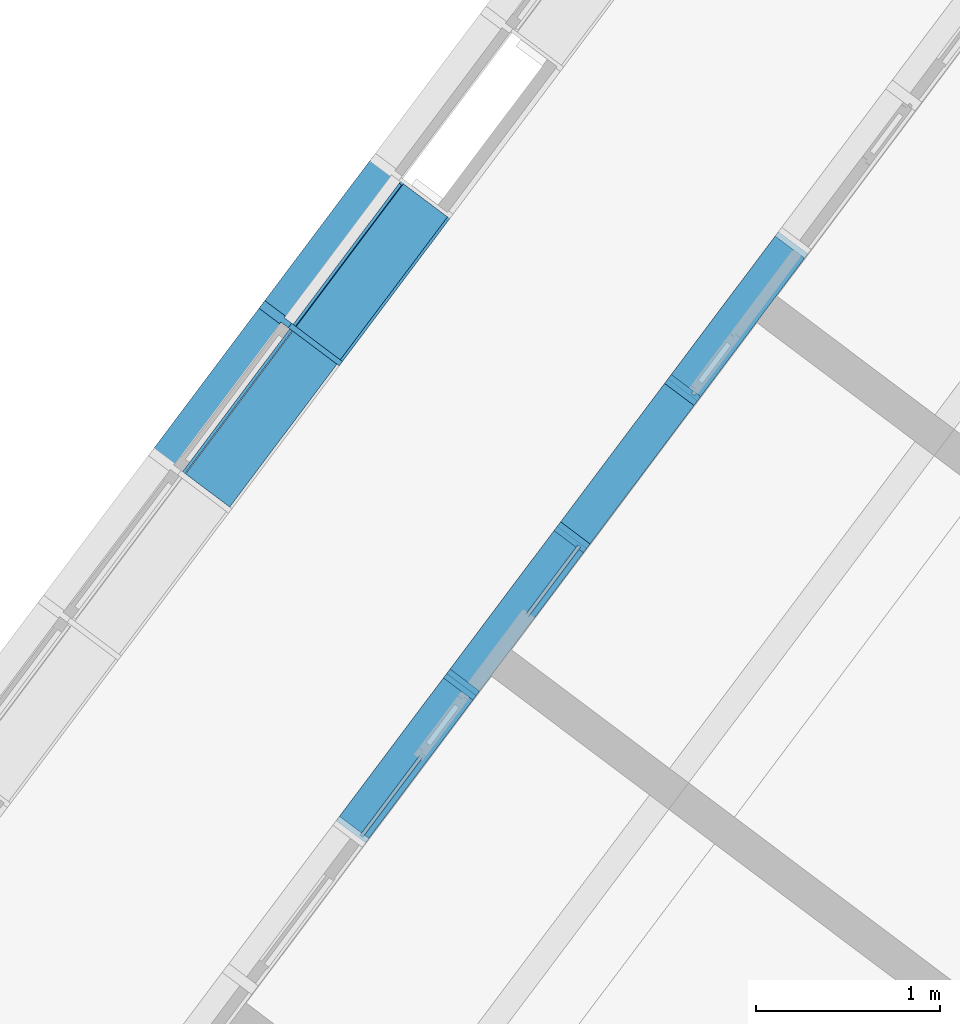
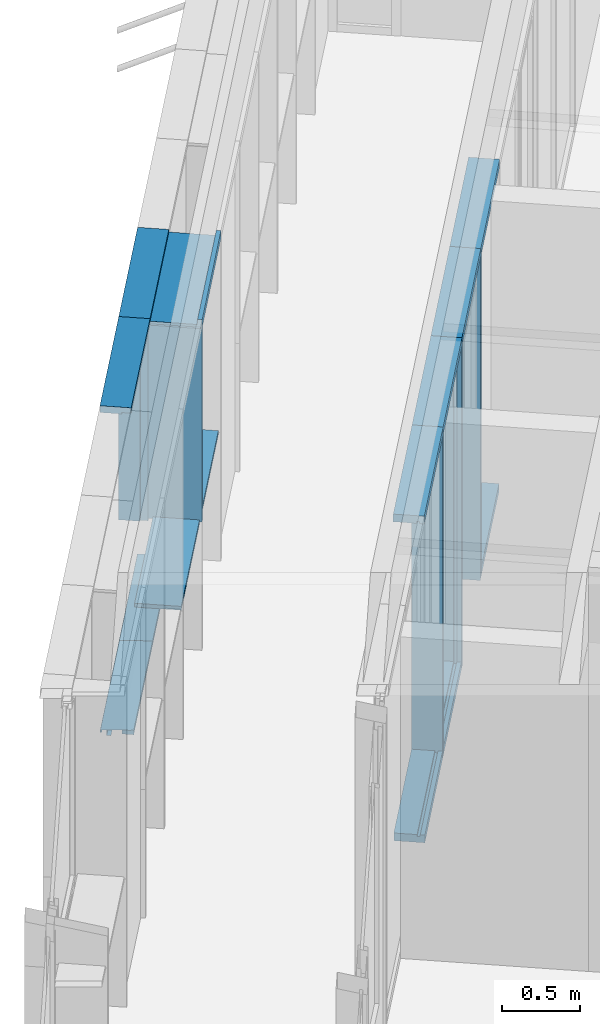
# One storey, part 22 of 243: 19 members, 3 elements without a shape of their own.
"""IFC2X3 building model written with IfcOpenShell, lengths in metres."""

from ifc_helpers import new_model, entity, si_unit, converted_unit, derived_unit, direction, frame, frame_2d, origin, place, context, subcontext, project, spatial, polyline, circle_curve, parameter, trimmed, segment, composite_curve, rectangle, outline, extrude, source, transform, mapped, material, type_object, type_shapes, element, aggregate, save


model = new_model("IFC2X3")

# Units and contexts
model_context = context("Model", 3, precision=1e-05, world=origin(), true_north=direction((6.123031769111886e-17, 1.0)))
body_context = subcontext(model_context, "Body", "Model", "MODEL_VIEW")
ifc_project = project(units=[si_unit("LENGTHUNIT", "METRE"), si_unit("AREAUNIT", "SQUARE_METRE"), si_unit("VOLUMEUNIT", "CUBIC_METRE"), converted_unit("PLANEANGLEUNIT", "DEGREE", entity("IfcRatioMeasure", 0.017453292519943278), si_unit("PLANEANGLEUNIT", "RADIAN"), dimensions=[0, 0, 0, 0, 0, 0, 0]), si_unit("MASSUNIT", "GRAM", prefix="KILO"), derived_unit("MASSDENSITYUNIT", [(si_unit("MASSUNIT", "GRAM", prefix="KILO"), 1), (si_unit("LENGTHUNIT", "METRE"), -3)]), derived_unit("IONCONCENTRATIONUNIT", [(si_unit("MASSUNIT", "GRAM", prefix="KILO"), 1), (si_unit("LENGTHUNIT", "METRE"), -3)]), derived_unit("MOMENTOFINERTIAUNIT", [(si_unit("LENGTHUNIT", "METRE"), 4)]), si_unit("TIMEUNIT", "SECOND"), si_unit("FREQUENCYUNIT", "HERTZ"), si_unit("THERMODYNAMICTEMPERATUREUNIT", "DEGREE_CELSIUS"), derived_unit("THERMALTRANSMITTANCEUNIT", [(si_unit("MASSUNIT", "GRAM", prefix="KILO"), 1), (si_unit("THERMODYNAMICTEMPERATUREUNIT", "KELVIN"), -1), (si_unit("TIMEUNIT", "SECOND"), -3)]), derived_unit("THERMALCONDUCTANCEUNIT", [(si_unit("MASSUNIT", "GRAM", prefix="KILO"), 1), (si_unit("THERMODYNAMICTEMPERATUREUNIT", "KELVIN"), -1), (si_unit("TIMEUNIT", "SECOND"), -3), (si_unit("LENGTHUNIT", "METRE"), 1)]), derived_unit("VOLUMETRICFLOWRATEUNIT", [(si_unit("LENGTHUNIT", "METRE"), 3), (si_unit("TIMEUNIT", "SECOND"), -1)]), derived_unit("MASSFLOWRATEUNIT", [(si_unit("MASSUNIT", "GRAM", prefix="KILO"), 1), (si_unit("TIMEUNIT", "SECOND"), -1)]), derived_unit("ROTATIONALFREQUENCYUNIT", [(si_unit("TIMEUNIT", "SECOND"), -1)]), si_unit("ELECTRICCURRENTUNIT", "AMPERE"), si_unit("ELECTRICVOLTAGEUNIT", "VOLT"), si_unit("POWERUNIT", "WATT"), si_unit("FORCEUNIT", "NEWTON", prefix="KILO"), si_unit("ILLUMINANCEUNIT", "LUX"), si_unit("LUMINOUSFLUXUNIT", "LUMEN"), si_unit("LUMINOUSINTENSITYUNIT", "CANDELA"), derived_unit("USERDEFINED", [(si_unit("MASSUNIT", "GRAM", prefix="KILO"), -1), (si_unit("LENGTHUNIT", "METRE"), -2), (si_unit("TIMEUNIT", "SECOND"), 3), (si_unit("LUMINOUSFLUXUNIT", "LUMEN"), 1)]), derived_unit("USERDEFINED", [(si_unit("MASSUNIT", "GRAM", prefix="KILO"), 1), (si_unit("TIMEUNIT", "SECOND"), -3), (si_unit("LENGTHUNIT", "METRE"), 3), (si_unit("ELECTRICCURRENTUNIT", "AMPERE"), -2)]), derived_unit("SOUNDPOWERUNIT", [(si_unit("MASSUNIT", "GRAM", prefix="KILO"), 1), (si_unit("TIMEUNIT", "SECOND"), -3), (si_unit("LENGTHUNIT", "METRE"), 2)]), derived_unit("SOUNDPRESSUREUNIT", [(si_unit("MASSUNIT", "GRAM", prefix="KILO"), 1), (si_unit("LENGTHUNIT", "METRE"), -1), (si_unit("TIMEUNIT", "SECOND"), -2)]), derived_unit("LINEARVELOCITYUNIT", [(si_unit("LENGTHUNIT", "METRE"), 1), (si_unit("TIMEUNIT", "SECOND"), -1)]), si_unit("PRESSUREUNIT", "PASCAL"), derived_unit("USERDEFINED", [(si_unit("MASSUNIT", "GRAM", prefix="KILO"), 1), (si_unit("LENGTHUNIT", "METRE"), -2), (si_unit("TIMEUNIT", "SECOND"), -2)]), derived_unit("LINEARFORCEUNIT", [(si_unit("MASSUNIT", "GRAM", prefix="KILO"), 1), (si_unit("TIMEUNIT", "SECOND"), -2)]), derived_unit("PLANARFORCEUNIT", [(si_unit("MASSUNIT", "GRAM", prefix="KILO"), 1), (si_unit("LENGTHUNIT", "METRE"), -1), (si_unit("TIMEUNIT", "SECOND"), -2)]), derived_unit("SPECIFICHEATCAPACITYUNIT", [(si_unit("THERMODYNAMICTEMPERATUREUNIT", "KELVIN"), -1), (si_unit("LENGTHUNIT", "METRE"), 2), (si_unit("TIMEUNIT", "SECOND"), -2)]), derived_unit("HEATINGVALUEUNIT", [(si_unit("LENGTHUNIT", "METRE"), 2), (si_unit("TIMEUNIT", "SECOND"), -2)]), derived_unit("VAPORPERMEABILITYUNIT", [(si_unit("LENGTHUNIT", "METRE"), -1), (si_unit("TIMEUNIT", "SECOND"), 1)]), derived_unit("DYNAMICVISCOSITYUNIT", [(si_unit("MASSUNIT", "GRAM", prefix="KILO"), 1), (si_unit("TIMEUNIT", "SECOND"), -1), (si_unit("LENGTHUNIT", "METRE"), -1)]), derived_unit("THERMALEXPANSIONCOEFFICIENTUNIT", [(si_unit("THERMODYNAMICTEMPERATUREUNIT", "KELVIN"), -1)]), derived_unit("MODULUSOFELASTICITYUNIT", [(si_unit("MASSUNIT", "GRAM", prefix="KILO"), 1), (si_unit("LENGTHUNIT", "METRE"), -1), (si_unit("TIMEUNIT", "SECOND"), -2)]), derived_unit("ISOTHERMALMOISTURECAPACITYUNIT", [(si_unit("LENGTHUNIT", "METRE"), 3), (si_unit("MASSUNIT", "GRAM", prefix="KILO"), -1)]), derived_unit("MOISTUREDIFFUSIVITYUNIT", [(si_unit("TIMEUNIT", "SECOND"), -1), (si_unit("LENGTHUNIT", "METRE"), 2)])], contexts=[model_context])

# Site, building, storey
site_placement = place(None, frame((0.0, 0.0, 235.0), z_axis=(0.0, 0.0, 1.0), x_axis=(-0.7996477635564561, 0.6004693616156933, 0.0)))
site = spatial("IfcSite", under=ifc_project, at=site_placement, Name="Default", CompositionType="ELEMENT")
building_placement = place(site_placement, origin())
building = spatial("IfcBuilding", under=site, at=building_placement, CompositionType="ELEMENT")
storey_placement = place(building_placement, origin())
storey = spatial("IfcBuildingStorey", under=building, at=storey_placement, Name="P0- Escola", CompositionType="ELEMENT", Elevation=0.0)

# Curtain wall, members
curtain_wall_type_1 = type_object("IfcCurtainWallType", Name="Muro cortina:MC- INT- a2", PredefinedType="NOTDEFINED")
curtain_wall_1_placement = place(storey_placement, origin())
curtain_wall_1 = element("IfcCurtainWall", 1, at=curtain_wall_1_placement, inside=storey, type_object=curtain_wall_type_1, Name="Muro cortina:MC- INT- a2", ObjectType="Muro cortina:MC- INT- a2")
ifc_material_1 = material(Name="_Fusta massisa- T1")
member_type_1 = type_object("IfcMemberType", Name="Montante rectangular:MC- Fusta- 20x6 cm- Esquerra", PredefinedType="MULLION", material=ifc_material_1)
shared_shape_1 = source(origin(), body_context, "Body", "SweptSolid", [
    extrude(outline(polyline([(-0.13, -0.018750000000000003), (0.02, -0.018750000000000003), (0.02, -0.003750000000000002), (0.04000000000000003, -0.003750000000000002), (0.04000000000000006, -0.01875000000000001), (0.07000000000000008, -0.018750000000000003), (0.06999999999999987, 0.041249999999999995), (-0.13, 0.041249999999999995), (-0.13, -0.018750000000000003)])), frame((-0.01124999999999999, 0.029999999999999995, -2.5050000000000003), z_axis=(0.0, 0.0, 1.0), x_axis=(0.0, -1.0, 0.0)), (0.0, 0.0, 1.0), 2.5050000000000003),
])
type_shapes(member_type_1, [shared_shape_1])
member_1_placement = place(curtain_wall_1_placement, frame((34.620147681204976, -29.415191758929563, 0.0), z_axis=(0.0, 0.0, -1.0), x_axis=(0.0, 1.0, 0.0)))
member_1 = element("IfcMember", 2, at=member_1_placement, type_object=member_type_1, material=ifc_material_1, Name="Montante rectangular:MC- Fusta- 20x6 cm- Esquerra", ObjectType="Montante rectangular:MC- Fusta- 20x6 cm- Esquerra", context=body_context, shape_type="MappedRepresentation", body=[
    mapped(shared_shape_1, transform((0.0, 0.0, 0.0), scale=1.0)),
])
member_type_2 = type_object("IfcMemberType", Name="Montante rectangular:MC- Fusta- 20x6 cm- Esquerra", PredefinedType="MULLION", material=ifc_material_1)
shared_shape_2 = source(origin(), body_context, "Body", "SweptSolid", [
    extrude(outline(polyline([(-0.13000000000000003, -0.018750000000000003), (0.020000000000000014, -0.018750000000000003), (0.020000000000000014, -0.003750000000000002), (0.040000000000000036, -0.003750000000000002), (0.04000000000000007, -0.01875000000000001), (0.07000000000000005, -0.018750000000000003), (0.06999999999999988, 0.041249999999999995), (-0.13000000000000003, 0.041249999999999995), (-0.13000000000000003, -0.018750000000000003)])), frame((-0.041249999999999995, 0.030000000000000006, -1.0), z_axis=(0.0, 0.0, 1.0), x_axis=(0.0, -1.0, 0.0)), (0.0, 0.0, 1.0), 0.9999999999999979),
])
type_shapes(member_type_2, [shared_shape_2])
member_2_placement = place(curtain_wall_1_placement, frame((34.620147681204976, -29.415191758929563, 2.565), z_axis=(0.0, 1.0, 0.0), x_axis=(0.0, 0.0, 1.0)))
member_2 = element("IfcMember", 3, at=member_2_placement, type_object=member_type_2, material=ifc_material_1, Name="Montante rectangular:MC- Fusta- 20x6 cm- Esquerra", ObjectType="Montante rectangular:MC- Fusta- 20x6 cm- Esquerra", context=body_context, shape_type="MappedRepresentation", body=[
    mapped(shared_shape_2, transform((0.0, 0.0, 0.0), scale=1.0)),
])
member_3_placement = place(curtain_wall_1_placement, frame((34.62014768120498, -26.415191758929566, 2.565), z_axis=(0.0, 1.0, 0.0), x_axis=(0.0, 0.0, 1.0)))
member_3 = element("IfcMember", 4, at=member_3_placement, type_object=member_type_2, material=ifc_material_1, Name="Montante rectangular:MC- Fusta- 20x6 cm- Esquerra", ObjectType="Montante rectangular:MC- Fusta- 20x6 cm- Esquerra", context=body_context, shape_type="MappedRepresentation", body=[
    mapped(shared_shape_2, transform((0.0, 0.0, 0.0), scale=1.0)),
])
member_type_3 = type_object("IfcMemberType", Name="Montante rectangular:MC- Fusta- 20x6 cm- Neutre", PredefinedType="MULLION", material=ifc_material_1)
shared_shape_3 = source(origin(), body_context, "Body", "SweptSolid", [
    extrude(rectangle(XDim=0.2, YDim=0.06, at=frame_2d((-5.551115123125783e-17, 0.0), x_axis=(1.0, 0.0))), frame((0.0, 0.060000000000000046, -2.5050000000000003), z_axis=(0.0, 0.0, 1.0), x_axis=(0.0, -1.0, 0.0)), (0.0, 0.0, 1.0), 2.5050000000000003),
])
type_shapes(member_type_3, [shared_shape_3])
member_4_placement = place(curtain_wall_1_placement, frame((34.62014768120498, -27.415191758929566, 0.0), z_axis=(0.0, 0.0, -1.0), x_axis=(0.0, 1.0, 0.0)))
member_4 = element("IfcMember", 5, at=member_4_placement, type_object=member_type_3, material=ifc_material_1, Name="Montante rectangular:MC- Fusta- 20x6 cm- Neutre", ObjectType="Montante rectangular:MC- Fusta- 20x6 cm- Neutre", context=body_context, shape_type="MappedRepresentation", body=[
    mapped(shared_shape_3, transform((0.0, 0.0, 0.0), scale=1.0)),
])
member_type_4 = type_object("IfcMemberType", Name="Montante rectangular:MC- Fusta- 20x6 cm- Esquerra", PredefinedType="MULLION", material=ifc_material_1)
shared_shape_4 = source(origin(), body_context, "Body", "SweptSolid", [
    extrude(outline(polyline([(-0.13, -0.018750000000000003), (0.02, -0.018750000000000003), (0.02, -0.003750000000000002), (0.04000000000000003, -0.003750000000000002), (0.04000000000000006, -0.01875000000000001), (0.07000000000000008, -0.018750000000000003), (0.06999999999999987, 0.041249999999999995), (-0.13, 0.041249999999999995), (-0.13, -0.018750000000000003)])), frame((-0.041249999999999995, 0.029999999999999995, -1.0), z_axis=(0.0, 0.0, 1.0), x_axis=(0.0, -1.0, 0.0)), (0.0, 0.0, 1.0), 0.9999999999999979),
])
type_shapes(member_type_4, [shared_shape_4])
member_5_placement = place(curtain_wall_1_placement, frame((34.62014768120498, -27.415191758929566, 2.565), z_axis=(0.0, 1.0, 0.0), x_axis=(0.0, 0.0, 1.0)))
member_5 = element("IfcMember", 6, at=member_5_placement, type_object=member_type_4, material=ifc_material_1, Name="Montante rectangular:MC- Fusta- 20x6 cm- Esquerra", ObjectType="Montante rectangular:MC- Fusta- 20x6 cm- Esquerra", context=body_context, shape_type="MappedRepresentation", body=[
    mapped(shared_shape_4, transform((0.0, 0.0, 0.0), scale=1.0)),
])
member_type_5 = type_object("IfcMemberType", Name="Montante rectangular:MC- Fusta- 20x6 cm- Neutre", PredefinedType="MULLION", material=ifc_material_1)
shared_shape_5 = source(origin(), body_context, "Body", "SweptSolid", [
    extrude(rectangle(XDim=0.20000000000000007, YDim=0.06, at=frame_2d((-5.551115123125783e-17, 0.0), x_axis=(1.0, 0.0))), frame((-0.03, 0.06000000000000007, -1.0), z_axis=(0.0, 0.0, 1.0), x_axis=(0.0, -1.0, 0.0)), (0.0, 0.0, 1.0), 0.9999999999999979),
])
type_shapes(member_type_5, [shared_shape_5])
member_6_placement = place(curtain_wall_1_placement, frame((34.620147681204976, -28.415191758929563, 2.565), z_axis=(0.0, 1.0, 0.0), x_axis=(0.0, 0.0, 1.0)))
member_6 = element("IfcMember", 7, at=member_6_placement, type_object=member_type_5, material=ifc_material_1, Name="Montante rectangular:MC- Fusta- 20x6 cm- Neutre", ObjectType="Montante rectangular:MC- Fusta- 20x6 cm- Neutre", context=body_context, shape_type="MappedRepresentation", body=[
    mapped(shared_shape_5, transform((0.0, 0.0, 0.0), scale=1.0)),
])
member_type_6 = type_object("IfcMemberType", Name="Montante rectangular:MC- Fusta- 20x6 cm- Dreta", PredefinedType="MULLION", material=ifc_material_1)
shared_shape_6 = source(origin(), body_context, "Body", "SweptSolid", [
    extrude(outline(polyline([(-0.13000000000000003, -0.041249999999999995), (0.07000000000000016, -0.041249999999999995), (0.06999999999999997, 0.01875), (0.039999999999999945, 0.01875), (0.03999999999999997, 0.00375), (0.019999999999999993, 0.00375), (0.019999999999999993, 0.01875), (-0.13000000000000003, 0.01875), (-0.13000000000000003, -0.041249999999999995)])), frame((0.011250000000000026, 0.029999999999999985, -2.5050000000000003), z_axis=(0.0, 0.0, 1.0), x_axis=(0.0, -1.0, 0.0)), (0.0, 0.0, 1.0), 2.5050000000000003),
])
type_shapes(member_type_6, [shared_shape_6])
member_7_placement = place(curtain_wall_1_placement, frame((34.620147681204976, -28.415191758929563, 0.0), z_axis=(0.0, 0.0, -1.0), x_axis=(0.0, 1.0, 0.0)))
member_7 = element("IfcMember", 8, at=member_7_placement, type_object=member_type_6, material=ifc_material_1, Name="Montante rectangular:MC- Fusta- 20x6 cm- Dreta", ObjectType="Montante rectangular:MC- Fusta- 20x6 cm- Dreta", context=body_context, shape_type="MappedRepresentation", body=[
    mapped(shared_shape_6, transform((0.0, 0.0, 0.0), scale=1.0)),
])
member_type_7 = type_object("IfcMemberType", Name="Montante rectangular:MC- Fusta- 20x6 cm- Inferior", PredefinedType="MULLION", material=ifc_material_1)
shared_shape_7 = source(origin(), body_context, "Body", "SweptSolid", [
    extrude(outline(polyline([(-0.12999999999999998, -0.018750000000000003), (0.01999999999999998, -0.018750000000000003), (0.01999999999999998, -0.0037500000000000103), (0.04, -0.0037500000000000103), (0.039999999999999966, -0.018750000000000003), (0.06999999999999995, -0.018750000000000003), (0.07000000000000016, 0.041249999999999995), (-0.12999999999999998, 0.041249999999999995), (-0.12999999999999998, -0.018750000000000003)])), frame((-0.041249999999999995, 0.029999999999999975, -0.9399999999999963), z_axis=(0.0, 0.0, 1.0), x_axis=(0.0, -1.0, 0.0)), (0.0, 0.0, 1.0), 0.9399999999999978),
])
type_shapes(member_type_7, [shared_shape_7])
member_8_placement = place(curtain_wall_1_placement, frame((34.620147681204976, -28.38519175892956, 0.0), z_axis=(0.0, -1.0, 0.0), x_axis=(0.0, 0.0, -1.0)))
member_8 = element("IfcMember", 9, at=member_8_placement, type_object=member_type_7, material=ifc_material_1, Name="Montante rectangular:MC- Fusta- 20x6 cm- Inferior", ObjectType="Montante rectangular:MC- Fusta- 20x6 cm- Inferior", context=body_context, shape_type="MappedRepresentation", body=[
    mapped(shared_shape_7, transform((0.0, 0.0, 0.0), scale=1.0)),
])
member_9_placement = place(curtain_wall_1_placement, frame((34.62014768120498, -27.385191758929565, 0.0), z_axis=(0.0, -1.0, 0.0), x_axis=(0.0, 0.0, -1.0)))
member_9 = element("IfcMember", 10, at=member_9_placement, type_object=member_type_7, material=ifc_material_1, Name="Montante rectangular:MC- Fusta- 20x6 cm- Inferior", ObjectType="Montante rectangular:MC- Fusta- 20x6 cm- Inferior", context=body_context, shape_type="MappedRepresentation", body=[
    mapped(shared_shape_7, transform((0.0, 0.0, 0.0), scale=1.0)),
])
member_type_8 = type_object("IfcMemberType", Name="Montante rectangular:MC- Fusta- 20x6 cm- Neutre", PredefinedType="MULLION", material=ifc_material_1)
shared_shape_8 = source(origin(), body_context, "Body", "SweptSolid", [
    extrude(rectangle(XDim=0.19999999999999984, YDim=0.06, at=frame_2d((4.85722573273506e-17, 0.0), x_axis=(1.0, 0.0))), frame((-0.03, 0.06000000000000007, -0.9399999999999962), z_axis=(0.0, 0.0, 1.0), x_axis=(0.0, -1.0, 0.0)), (0.0, 0.0, 1.0), 0.9399999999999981),
])
type_shapes(member_type_8, [shared_shape_8])
member_10_placement = place(curtain_wall_1_placement, frame((34.620147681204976, -30.385191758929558, 0.0), z_axis=(0.0, -1.0, 0.0), x_axis=(0.0, 0.0, -1.0)))
member_10 = element("IfcMember", 11, at=member_10_placement, type_object=member_type_8, material=ifc_material_1, Name="Montante rectangular:MC- Fusta- 20x6 cm- Neutre", ObjectType="Montante rectangular:MC- Fusta- 20x6 cm- Neutre", context=body_context, shape_type="MappedRepresentation", body=[
    mapped(shared_shape_8, transform((0.0, 0.0, 0.0), scale=1.0)),
])
aggregate(curtain_wall_1, [member_2, member_1, member_6, member_7, member_5, member_4, member_3, member_10, member_8, member_9])

curtain_wall_type_2 = type_object("IfcCurtainWallType", Name="Muro cortina:MC- INT- k2", PredefinedType="NOTDEFINED")
curtain_wall_2_placement = place(storey_placement, origin())
curtain_wall_2 = element("IfcCurtainWall", 12, at=curtain_wall_2_placement, inside=storey, type_object=curtain_wall_type_2, Name="Muro cortina:MC- INT- k2", ObjectType="Muro cortina:MC- INT- k2")
member_type_9 = type_object("IfcMemberType", Name="Montante rectangular:MC- Fusta- 35x3 cm- Pati aules- Remat superior", PredefinedType="MULLION", material=ifc_material_1)
shared_shape_9 = source(origin(), body_context, "Body", "SweptSolid", [
    extrude(outline(polyline([(-0.12166666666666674, -0.02666666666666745), (0.21333333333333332, -0.02666666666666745), (0.2133333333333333, -0.006666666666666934), (-0.09166666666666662, -0.006666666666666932), (-0.09166666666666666, 0.03333333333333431), (-0.12166666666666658, 0.03333333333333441), (-0.12166666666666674, -0.02666666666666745)])), frame((-0.033333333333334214, -0.026666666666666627, -1.0), z_axis=(0.0, 0.0, 1.0), x_axis=(0.0, -1.0, 0.0)), (0.0, 0.0, 1.0), 0.9999999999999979),
])
type_shapes(member_type_9, [shared_shape_9])
member_11_placement = place(curtain_wall_2_placement, frame((36.345147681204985, -29.415191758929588, 2.565), z_axis=(0.0, -1.0, 0.0), x_axis=(0.0, 0.0, 1.0)))
member_11 = element("IfcMember", 13, at=member_11_placement, type_object=member_type_9, material=ifc_material_1, Name="Montante rectangular:MC- Fusta- 35x3 cm- Pati aules- Remat superior", ObjectType="Montante rectangular:MC- Fusta- 35x3 cm- Pati aules- Remat superior", context=body_context, shape_type="MappedRepresentation", body=[
    mapped(shared_shape_9, transform((0.0, 0.0, 0.0), scale=1.0)),
])
member_type_10 = type_object("IfcMemberType", Name="Montante rectangular:MC- Fusta- 35x3 cm- Pati aules- Prestatge", PredefinedType="MULLION", material=ifc_material_1)
shared_shape_10 = source(origin(), body_context, "Body", "SweptSolid", [
    extrude(rectangle(XDim=0.30000000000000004, YDim=0.03000000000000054, at=frame_2d((0.0, -1.231653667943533e-16), x_axis=(1.0, 0.0))), frame((0.0, -0.07000000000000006, -0.9699999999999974), z_axis=(0.0, 0.0, 1.0), x_axis=(0.0, -1.0, 0.0)), (0.0, 0.0, 1.0), 0.969999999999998),
])
type_shapes(member_type_10, [shared_shape_10])
member_12_placement = place(curtain_wall_2_placement, frame((36.34514768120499, -28.400191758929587, 1.0), z_axis=(0.0, -1.0, 0.0), x_axis=(0.0, 0.0, 1.0)))
member_12 = element("IfcMember", 14, at=member_12_placement, type_object=member_type_10, material=ifc_material_1, Name="Montante rectangular:MC- Fusta- 35x3 cm- Pati aules- Prestatge", ObjectType="Montante rectangular:MC- Fusta- 35x3 cm- Pati aules- Prestatge", context=body_context, shape_type="MappedRepresentation", body=[
    mapped(shared_shape_10, transform((0.0, 0.0, 0.0), scale=1.0)),
])
member_13_placement = place(curtain_wall_2_placement, frame((36.345147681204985, -29.400191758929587, 1.0), z_axis=(0.0, -1.0, 0.0), x_axis=(0.0, 0.0, 1.0)))
member_13 = element("IfcMember", 15, at=member_13_placement, type_object=member_type_10, material=ifc_material_1, Name="Montante rectangular:MC- Fusta- 35x3 cm- Pati aules- Prestatge", ObjectType="Montante rectangular:MC- Fusta- 35x3 cm- Pati aules- Prestatge", context=body_context, shape_type="MappedRepresentation", body=[
    mapped(shared_shape_10, transform((0.0, 0.0, 0.0), scale=1.0)),
])
member_type_11 = type_object("IfcMemberType", Name="Montante rectangular:MC- Fusta- 35x3 cm- Centre", PredefinedType="MULLION", material=ifc_material_1)
shared_shape_11 = source(origin(), body_context, "Body", "SweptSolid", [
    extrude(rectangle(XDim=0.3450000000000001, YDim=0.030000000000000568, at=frame_2d((0.0, -1.3964523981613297e-16), x_axis=(1.0, 0.0))), frame((0.0, -0.07750000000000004, -1.504999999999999), z_axis=(0.0, 0.0, 1.0), x_axis=(0.0, -1.0, 0.0)), (0.0, 0.0, 1.0), 1.504999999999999),
])
type_shapes(member_type_11, [shared_shape_11])
member_14_placement = place(curtain_wall_2_placement, frame((36.34514768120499, -28.415191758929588, 1.0), z_axis=(0.0, 0.0, -1.0), x_axis=(0.0, -1.0, 0.0)))
member_14 = element("IfcMember", 16, at=member_14_placement, type_object=member_type_11, material=ifc_material_1, Name="Montante rectangular:MC- Fusta- 35x3 cm- Centre", ObjectType="Montante rectangular:MC- Fusta- 35x3 cm- Centre", context=body_context, shape_type="MappedRepresentation", body=[
    mapped(shared_shape_11, transform((0.0, 0.0, 0.0), scale=1.0)),
])
aggregate(curtain_wall_2, [member_11, member_12, member_13, member_14])

curtain_wall_type_3 = type_object("IfcCurtainWallType", Name="Muro cortina:MC- EXT- MC5", PredefinedType="NOTDEFINED")
curtain_wall_3_placement = place(storey_placement, origin())
curtain_wall_3 = element("IfcCurtainWall", 17, at=curtain_wall_3_placement, inside=storey, type_object=curtain_wall_type_3, Name="Muro cortina:MC- EXT- MC5", ObjectType="Muro cortina:MC- EXT- MC5")
ifc_material_2 = material(Name="_Alumini- T1- Perfil")
member_type_12 = type_object("IfcMemberType", Name="Montante rectangular:MC- Alu- 140x52,5 cm- Fa patis- Superior", PredefinedType="MULLION", material=ifc_material_2)
shared_shape_12 = source(origin(), body_context, "Body", "SweptSolid", [
    extrude(outline(polyline([(-0.026333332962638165, -0.021249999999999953), (0.11366666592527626, -0.021249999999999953), (0.11366666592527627, 0.031250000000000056), (-0.08733333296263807, 0.03125000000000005), (-0.0873333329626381, -0.010000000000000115), (-0.026333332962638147, -0.010000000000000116), (-0.026333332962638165, -0.021249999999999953)])), frame((-0.031250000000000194, -0.02733333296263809, -1.0), z_axis=(0.0, 0.0, 1.0), x_axis=(0.0, -1.0, 0.0)), (0.0, 0.0, 1.0), 1.0000000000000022),
])
type_shapes(member_type_12, [shared_shape_12])
member_15_placement = place(curtain_wall_3_placement, frame((36.645147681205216, -28.415191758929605, 2.545), z_axis=(0.0, -1.0, 0.0), x_axis=(0.0, 0.0, 1.0)))
member_15 = element("IfcMember", 18, at=member_15_placement, type_object=member_type_12, material=ifc_material_2, Name="Montante rectangular:MC- Alu- 140x52,5 cm- Fa patis- Superior", ObjectType="Montante rectangular:MC- Alu- 140x52,5 cm- Fa patis- Superior", context=body_context, shape_type="MappedRepresentation", body=[
    mapped(shared_shape_12, transform((0.0, 0.0, 0.0), scale=1.0)),
])
member_16_placement = place(curtain_wall_3_placement, frame((36.645147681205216, -29.415191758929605, 2.545), z_axis=(0.0, -1.0, 0.0), x_axis=(0.0, 0.0, 1.0)))
member_16 = element("IfcMember", 19, at=member_16_placement, type_object=member_type_12, material=ifc_material_2, Name="Montante rectangular:MC- Alu- 140x52,5 cm- Fa patis- Superior", ObjectType="Montante rectangular:MC- Alu- 140x52,5 cm- Fa patis- Superior", context=body_context, shape_type="MappedRepresentation", body=[
    mapped(shared_shape_12, transform((0.0, 0.0, 0.0), scale=1.0)),
])
member_type_13 = type_object("IfcMemberType", Name="Montante rectangular:MC- Alu- 140x52,5 cm- Fa patis- inferior", PredefinedType="MULLION", material=ifc_material_2)
shared_shape_13 = source(origin(), body_context, "Body", "SweptSolid", [
    extrude(outline(composite_curve([segment(polyline([(-0.144167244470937, -0.02586710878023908), (-0.12786724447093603, -0.025867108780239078)]), True, "CONTINUOUS"), segment(polyline([(-0.12786724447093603, -0.025867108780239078), (-0.12786724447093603, -0.023167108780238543)]), True, "CONTINUOUS"), segment(polyline([(-0.12786724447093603, -0.023167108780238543), (-0.0678672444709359, -0.023167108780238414)]), True, "CONTINUOUS"), segment(polyline([(-0.0678672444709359, -0.023167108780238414), (0.07031215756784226, -0.01072210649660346)]), True, "CONTINUOUS"), segment(trimmed(circle_curve(frame_2d((0.07013275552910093, -0.00873016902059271), x_axis=(0.0897010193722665, -0.9959687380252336)), 0.0019999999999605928), [parameter(0.0)], [parameter(84.85359280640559)], True, "PARAMETER"), True, "CONTINUOUS"), segment(polyline([(0.07213275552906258, -0.008730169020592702), (0.07213275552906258, 0.006266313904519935)]), True, "CONTINUOUS"), segment(trimmed(circle_curve(frame_2d((0.070132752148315, 0.0062663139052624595), x_axis=(1.0, 0.0)), 0.0020000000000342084), [parameter(0.0)], [parameter(90.00000002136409)], True, "PARAMETER"), True, "CONTINUOUS"), segment(polyline([(0.070132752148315, 0.008266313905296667), (0.06213275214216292, 0.008266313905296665)]), True, "CONTINUOUS"), segment(polyline([(0.06213275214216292, 0.008266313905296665), (0.06213275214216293, 0.006266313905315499)]), True, "CONTINUOUS"), segment(polyline([(0.06213275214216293, 0.006266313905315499), (0.06963275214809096, 0.006266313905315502)]), True, "CONTINUOUS"), segment(trimmed(circle_curve(frame_2d((0.06963275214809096, 0.005766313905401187), x_axis=(0.0, 1.0)), 0.000499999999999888), [parameter(269.9999999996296)], [parameter(0.0)], True, "PARAMETER"), False, "CONTINUOUS"), segment(polyline([(0.07013275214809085, 0.005766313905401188), (0.07013275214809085, -0.0087301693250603)]), True, "CONTINUOUS"), segment(polyline([(0.07013275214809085, -0.0087301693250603), (0.03213275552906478, -0.01215260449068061)]), True, "CONTINUOUS"), segment(polyline([(0.03213275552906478, -0.012152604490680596), (0.03213275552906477, 0.02913289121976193)]), True, "CONTINUOUS"), segment(polyline([(0.03213275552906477, 0.02913289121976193), (0.0021327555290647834, 0.029132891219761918)]), True, "CONTINUOUS"), segment(polyline([(0.0021327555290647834, 0.029132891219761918), (0.0021327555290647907, 0.027132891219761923)]), True, "CONTINUOUS"), segment(polyline([(0.0021327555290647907, 0.027132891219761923), (0.03013275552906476, 0.027132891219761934)]), True, "CONTINUOUS"), segment(polyline([(0.03013275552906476, 0.027132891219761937), (0.03013275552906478, -0.012332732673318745)]), True, "CONTINUOUS"), segment(polyline([(0.03013275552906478, -0.012332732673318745), (-0.06786724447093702, -0.02115901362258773)]), True, "CONTINUOUS"), segment(polyline([(-0.06786724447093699, -0.021159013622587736), (-0.067867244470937, 0.009132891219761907)]), True, "CONTINUOUS"), segment(polyline([(-0.06786724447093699, 0.009132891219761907), (-0.14416724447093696, 0.00913289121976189)]), True, "CONTINUOUS"), segment(polyline([(-0.14416724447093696, 0.00913289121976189), (-0.144167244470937, -0.02586710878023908)]), True, "CONTINUOUS")], self_intersect=False)), frame((-0.02913289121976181, -0.06786724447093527, -1.0), z_axis=(0.0, 0.0, 1.0), x_axis=(0.0, -1.0, 0.0)), (0.0, 0.0, 1.0), 0.9999999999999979),
])
type_shapes(member_type_13, [shared_shape_13])
member_17_placement = place(curtain_wall_3_placement, frame((36.645147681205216, -27.41519175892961, -0.02), z_axis=(0.0, 1.0, 0.0), x_axis=(0.0, 0.0, -1.0)))
member_17 = element("IfcMember", 20, at=member_17_placement, type_object=member_type_13, material=ifc_material_2, Name="Montante rectangular:MC- Alu- 140x52,5 cm- Fa patis- inferior", ObjectType="Montante rectangular:MC- Alu- 140x52,5 cm- Fa patis- inferior", context=body_context, shape_type="MappedRepresentation", body=[
    mapped(shared_shape_13, transform((0.0, 0.0, 0.0), scale=1.0)),
])
member_type_14 = type_object("IfcMemberType", Name="Montante rectangular:MC- Alu- 140x52,5 cm- Fa patis- inferior", PredefinedType="MULLION", material=ifc_material_2)
shared_shape_14 = source(origin(), body_context, "Body", "SweptSolid", [
    extrude(outline(composite_curve([segment(polyline([(-0.144167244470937, -0.025867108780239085), (-0.12786724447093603, -0.02586710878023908)]), True, "CONTINUOUS"), segment(polyline([(-0.12786724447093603, -0.02586710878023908), (-0.12786724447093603, -0.023167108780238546)]), True, "CONTINUOUS"), segment(polyline([(-0.12786724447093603, -0.023167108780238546), (-0.0678672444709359, -0.023167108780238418)]), True, "CONTINUOUS"), segment(polyline([(-0.0678672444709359, -0.023167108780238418), (0.07031215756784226, -0.010722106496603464)]), True, "CONTINUOUS"), segment(trimmed(circle_curve(frame_2d((0.07013275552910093, -0.008730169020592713), x_axis=(0.0897010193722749, -0.9959687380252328)), 0.0019999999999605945), [parameter(0.0)], [parameter(84.8535928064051)], True, "PARAMETER"), True, "CONTINUOUS"), segment(polyline([(0.07213275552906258, -0.008730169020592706), (0.07213275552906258, 0.006266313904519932)]), True, "CONTINUOUS"), segment(trimmed(circle_curve(frame_2d((0.07013275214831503, 0.006266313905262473), x_axis=(1.0, 0.0)), 0.0020000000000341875), [parameter(0.0)], [parameter(90.00000002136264)], True, "PARAMETER"), True, "CONTINUOUS"), segment(polyline([(0.070132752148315, 0.008266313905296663), (0.06213275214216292, 0.008266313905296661)]), True, "CONTINUOUS"), segment(polyline([(0.06213275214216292, 0.008266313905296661), (0.06213275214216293, 0.006266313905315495)]), True, "CONTINUOUS"), segment(polyline([(0.06213275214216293, 0.006266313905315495), (0.06963275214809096, 0.006266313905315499)]), True, "CONTINUOUS"), segment(trimmed(circle_curve(frame_2d((0.06963275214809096, 0.005766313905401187), x_axis=(0.0, 1.0)), 0.0004999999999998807), [parameter(269.9999999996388)], [parameter(0.0)], True, "PARAMETER"), False, "CONTINUOUS"), segment(polyline([(0.07013275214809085, 0.005766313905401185), (0.07013275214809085, -0.008730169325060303)]), True, "CONTINUOUS"), segment(polyline([(0.07013275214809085, -0.008730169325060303), (0.03213275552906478, -0.012152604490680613)]), True, "CONTINUOUS"), segment(polyline([(0.03213275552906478, -0.0121526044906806), (0.03213275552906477, 0.029132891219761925)]), True, "CONTINUOUS"), segment(polyline([(0.03213275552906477, 0.029132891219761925), (0.0021327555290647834, 0.029132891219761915)]), True, "CONTINUOUS"), segment(polyline([(0.0021327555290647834, 0.029132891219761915), (0.0021327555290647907, 0.02713289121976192)]), True, "CONTINUOUS"), segment(polyline([(0.0021327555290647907, 0.02713289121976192), (0.03013275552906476, 0.02713289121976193)]), True, "CONTINUOUS"), segment(polyline([(0.03013275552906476, 0.027132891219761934), (0.03013275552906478, -0.012332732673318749)]), True, "CONTINUOUS"), segment(polyline([(0.03013275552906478, -0.012332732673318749), (-0.06786724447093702, -0.021159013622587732)]), True, "CONTINUOUS"), segment(polyline([(-0.06786724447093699, -0.02115901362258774), (-0.067867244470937, 0.009132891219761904)]), True, "CONTINUOUS"), segment(polyline([(-0.06786724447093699, 0.009132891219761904), (-0.14416724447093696, 0.009132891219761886)]), True, "CONTINUOUS"), segment(polyline([(-0.14416724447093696, 0.009132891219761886), (-0.144167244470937, -0.025867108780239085)]), True, "CONTINUOUS")], self_intersect=False)), frame((-0.029132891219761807, -0.06786724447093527, -0.9737499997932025), z_axis=(0.0, 0.0, 1.0), x_axis=(0.0, -1.0, 0.0)), (0.0, 0.0, 1.0), 0.9737499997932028),
])
type_shapes(member_type_14, [shared_shape_14])
member_18_placement = place(curtain_wall_3_placement, frame((36.645147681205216, -28.415191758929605, -0.02), z_axis=(0.0, 1.0, 0.0), x_axis=(0.0, 0.0, -1.0)))
member_18 = element("IfcMember", 21, at=member_18_placement, type_object=member_type_14, material=ifc_material_2, Name="Montante rectangular:MC- Alu- 140x52,5 cm- Fa patis- inferior", ObjectType="Montante rectangular:MC- Alu- 140x52,5 cm- Fa patis- inferior", context=body_context, shape_type="MappedRepresentation", body=[
    mapped(shared_shape_14, transform((0.0, 0.0, 0.0), scale=1.0)),
])
member_type_15 = type_object("IfcMemberType", Name="Montante rectangular:MC- Alu- 140x52,5 cm- Fa patis- Centre", PredefinedType="MULLION", material=ifc_material_2)
shared_shape_15 = source(origin(), body_context, "Body", "SweptSolid", [
    extrude(outline(polyline([(-0.021999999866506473, -0.026250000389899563), (0.11699999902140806, -0.026250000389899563), (0.11699999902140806, 0.026250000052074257), (-0.022000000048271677, 0.026250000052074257), (-0.022000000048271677, 0.015000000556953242), (-0.07299999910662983, 0.015000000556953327), (-0.07299999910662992, -0.01500000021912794), (-0.021999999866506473, -0.01500000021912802), (-0.021999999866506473, -0.026250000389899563)])), frame((0.0, -0.022999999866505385, -1.5124999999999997), z_axis=(0.0, 0.0, 1.0), x_axis=(0.0, -1.0, 0.0)), (0.0, 0.0, 1.0), 1.5124999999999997),
])
type_shapes(member_type_15, [shared_shape_15])
member_19_placement = place(curtain_wall_3_placement, frame((36.645147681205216, -28.415191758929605, 0.98), z_axis=(0.0, 0.0, -1.0), x_axis=(0.0, -1.0, 0.0)))
member_19 = element("IfcMember", 22, at=member_19_placement, type_object=member_type_15, material=ifc_material_2, Name="Montante rectangular:MC- Alu- 140x52,5 cm- Fa patis- Centre", ObjectType="Montante rectangular:MC- Alu- 140x52,5 cm- Fa patis- Centre", context=body_context, shape_type="MappedRepresentation", body=[
    mapped(shared_shape_15, transform((0.0, 0.0, 0.0), scale=1.0)),
])
aggregate(curtain_wall_3, [member_17, member_15, member_18, member_16, member_19])

save(model, "model.ifc")
